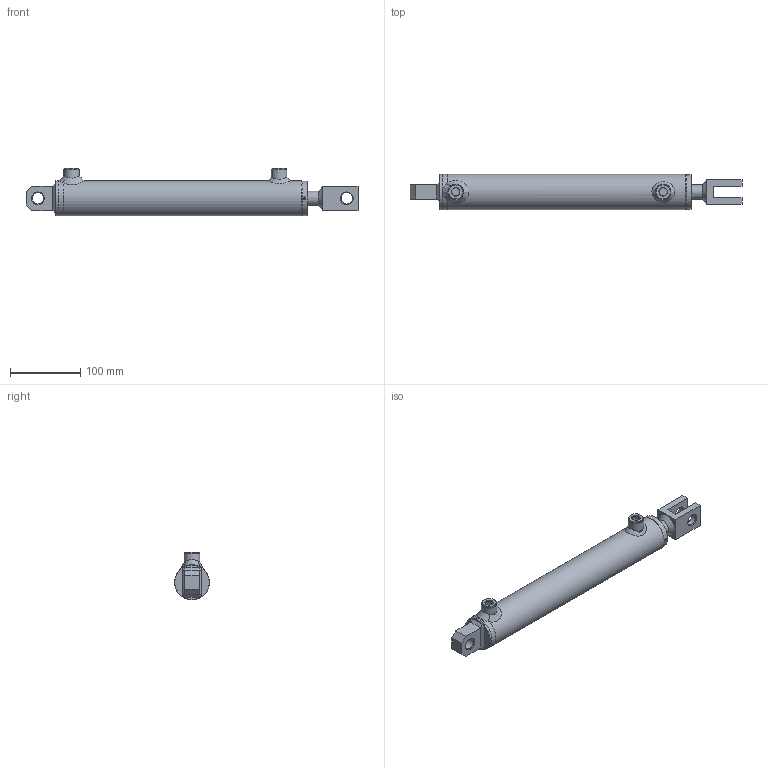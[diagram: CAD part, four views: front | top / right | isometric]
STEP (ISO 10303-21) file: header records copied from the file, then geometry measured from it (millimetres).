
FILE_DESCRIPTION( ( 'Unknown' ), '1' );
FILE_NAME( 'E:/LIBRERIA_3d/CILINDRI/HM5/HM51200250.stp', 'Unknown', ( 'Unknown' ), ( 'Unknown' ), 'PSStep 17.0.49', 'Unknown', ' ' );
FILE_SCHEMA( ( 'AUTOMOTIVE_DESIGN { 1 0 10303 214 1 1 1 1 }' ) );
Length unit declared in the file: millimetre
Products named in the file (29): CT00040015; CG05004020; STL1500250-oa7; Saldatura d'angolo 1-oa5; FTM1500250-oa6; CBSC220400; HM01200250; Saldatura con preparazione 1-oa3; Saldatura d'angolo 1-oa4; CF00040050; CDA0001415; CBS0400000; APG0400000; SBL2010250; Assem1; CSCS004010; COF1600000; CFS0000016; Saldatura con preparazione 1-oa0; Saldatura d'angolo 1-oa1; Saldatura d'angolo 2-oa2
Assembly tree (22 placements, depth 4):
  Saldatura d'angolo 1-oa5
  Saldatura d'angolo 1-oa5
  Saldatura d'angolo 1-oa4
  Saldatura d'angolo 1-oa4
  Assem1
    CSCS004010  x2
    COF1600000
    CFS0000016
    Saldatura con preparazione 1-oa0
    Saldatura con preparazione 1-oa0
    HM01200250
      Saldatura con preparazione 1-oa3
      Saldatura con preparazione 1-oa3
      CF00040050
      CDA0001415
      CBS0400000
      APG0400000  x2
      SBL2010250
      CT00040015
        CT00040015
      CG05004020
        CG05004020
      STL1500250-oa7
        FTM1500250-oa6
        CBSC220400
Bounding box: 472 x 50 x 68 mm (x, y, z)
Volume: 517938.3 mm3; surface area: 195143.2 mm2
Topology: 26 solids, 26 shells, 283 faces, 607 edges, 373 vertices
Faces by surface type: plane 96, cylinder 69, cone 52, bspline 34, torus 32
Full cylindrical faces by diameter (mm): 4 x4, 4.25 x3, 7 x2, 11.445 x2, 12 x2, 13.1 x2, 14 x2, 15 x3, 16.2 x3, 19.5 x1, 20 x10, 22 x4, 23 x1, 28 x1, 28.6 x1, 30 x1, 35 x1, 35.4 x2, 38.5 x2, 39.9 x1, 40 x1, 40.3 x1, 40.5 x1, 40.6 x1, 41 x1, 42 x3, 42.5 x1, 44 x1, 49 x1, 50 x4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
Entity records: 11462 total; most frequent: CARTESIAN_POINT 4413, DIRECTION 1024, ORIENTED_EDGE 740, AXIS2_PLACEMENT_3D 464, EDGE_LOOP 462, EDGE_CURVE 370, FACE_OUTER_BOUND 366, VERTEX_POINT 305
